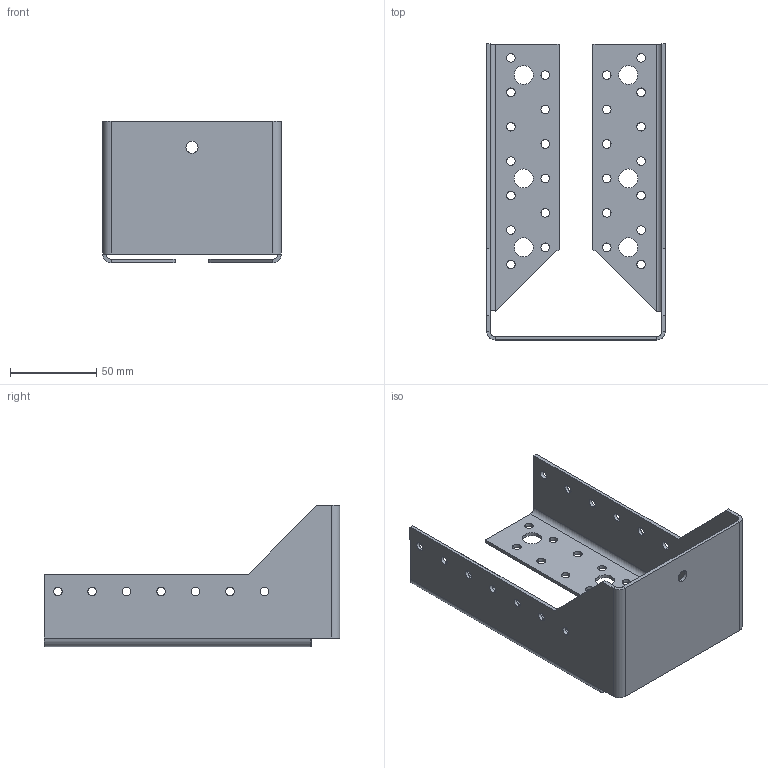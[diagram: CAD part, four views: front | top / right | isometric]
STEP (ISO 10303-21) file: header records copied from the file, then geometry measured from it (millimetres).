
FILE_DESCRIPTION (( 'STEP AP203' ), '1' );
FILE_NAME ('30628IKO.STEP', '2020-04-09T13:34:36', ( '' ), ( '' ), 'SwSTEP 2.0', 'SolidWorks 2013', '' );
FILE_SCHEMA (( 'CONFIG_CONTROL_DESIGN' ));
Length unit declared in the file: millimetre
Products named in the file (1): 30628IKO
Bounding box: 103.72 x 171.86 x 82 mm (x, y, z)
Volume: 66989 mm3; surface area: 70941 mm2
Topology: 1 solids, 1 shells, 139 faces, 379 edges, 242 vertices
Faces by surface type: cylinder 102, plane 37
Entity records: 4726 total; most frequent: DIRECTION 863, CARTESIAN_POINT 761, ORIENTED_EDGE 758, EDGE_CURVE 379, AXIS2_PLACEMENT_3D 344, VERTEX_POINT 242, EDGE_LOOP 233, CIRCLE 204
